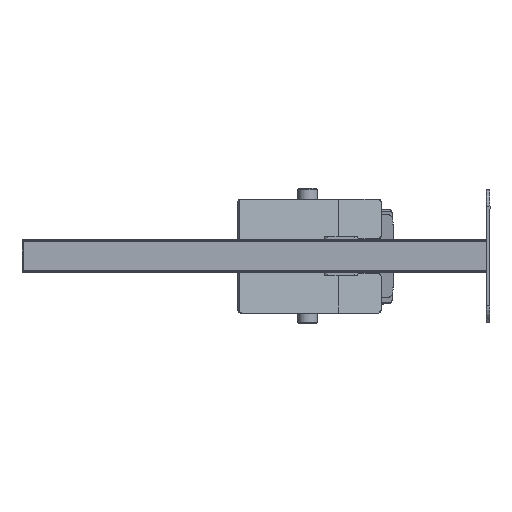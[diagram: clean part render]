
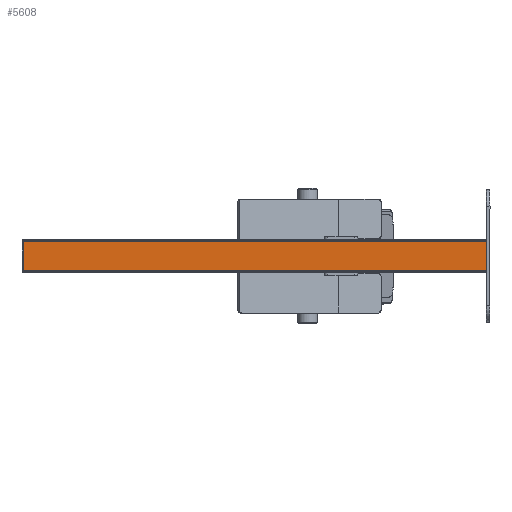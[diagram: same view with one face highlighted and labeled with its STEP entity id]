
A CAD part, left-side view. The second image highlights one B-rep face of the part: STEP entity #5608.
In plain terms, the highlighted planar face has unit normal (-1, -0.002, 0).
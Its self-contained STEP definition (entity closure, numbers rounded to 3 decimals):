
#330=PLANE('',#6278);
#778=LINE('',#9650,#1255);
#781=LINE('',#9665,#1258);
#786=LINE('',#9680,#1263);
#808=LINE('',#9738,#1285);
#1255=VECTOR('',#7940,10.);
#1258=VECTOR('',#7953,10.);
#1263=VECTOR('',#7968,10.);
#1285=VECTOR('',#8030,10.);
#1751=FACE_OUTER_BOUND('',#2117,.T.);
#2117=EDGE_LOOP('',(#5243,#5244,#5245,#5246));
#2847=VERTEX_POINT('',#9644);
#2849=VERTEX_POINT('',#9648);
#2854=VERTEX_POINT('',#9661);
#2856=VERTEX_POINT('',#9664);
#3628=EDGE_CURVE('',#2847,#2849,#778,.T.);
#3634=EDGE_CURVE('',#2854,#2856,#781,.T.);
#3642=EDGE_CURVE('',#2847,#2854,#786,.T.);
#3672=EDGE_CURVE('',#2856,#2849,#808,.T.);
#5243=ORIENTED_EDGE('',*,*,#3642,.F.);
#5244=ORIENTED_EDGE('',*,*,#3628,.T.);
#5245=ORIENTED_EDGE('',*,*,#3672,.F.);
#5246=ORIENTED_EDGE('',*,*,#3634,.F.);
#5608=ADVANCED_FACE('',(#1751),#330,.T.);
#6278=AXIS2_PLACEMENT_3D('',#9737,#8028,#8029);
#7940=DIRECTION('',(0.002,-1.,0.));
#7953=DIRECTION('',(0.002,-1.,0.));
#7968=DIRECTION('',(0.,0.,1.));
#8028=DIRECTION('center_axis',(-1.,-0.002,
0.));
#8029=DIRECTION('ref_axis',(0.,0.,1.));
#8030=DIRECTION('',(0.,0.,-1.));
#9644=CARTESIAN_POINT('',(-47.967,671.726,-42.));
#9648=CARTESIAN_POINT('',(-45.524,-728.272,-42.));
#9650=CARTESIAN_POINT('',(-47.967,671.726,-42.));
#9661=CARTESIAN_POINT('',(-47.967,671.726,46.));
#9664=CARTESIAN_POINT('',(-45.524,-728.272,46.));
#9665=CARTESIAN_POINT('',(-47.967,671.726,46.));
#9680=CARTESIAN_POINT('',(-47.967,671.726,42.));
#9737=CARTESIAN_POINT('Origin',(-45.394,-802.672,-112.4));
#9738=CARTESIAN_POINT('',(-45.524,-728.272,-42.));
